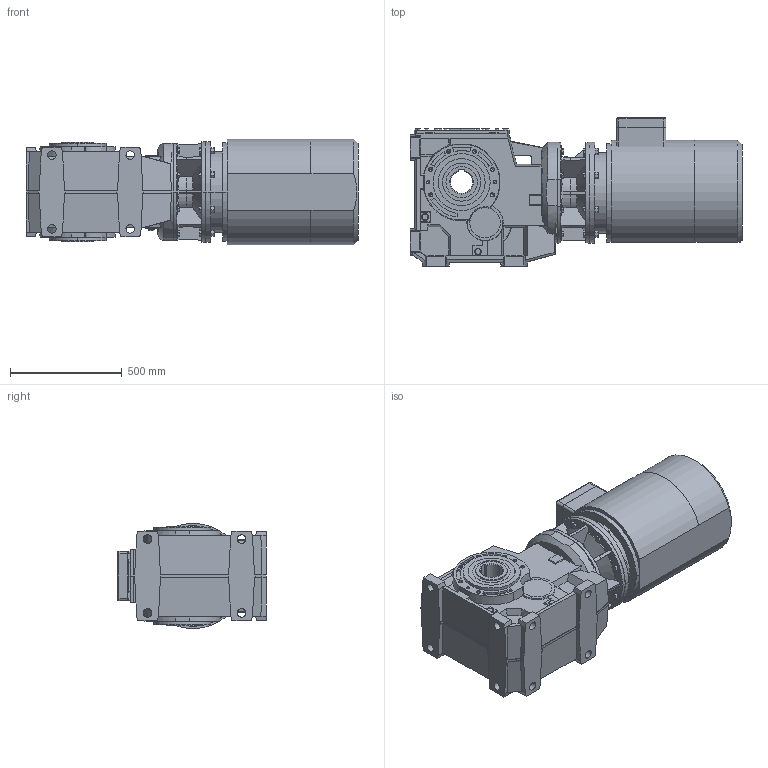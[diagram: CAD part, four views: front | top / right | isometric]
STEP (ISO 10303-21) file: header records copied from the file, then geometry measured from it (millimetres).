
FILE_DESCRIPTION( ( '' ), '1' );
FILE_NAME( '//expscmdclustefs.cadenas.external/client_exchange/iodir/jobs/output/wkb50801938_no0/STEP/B163UC8_89225_B5100000000T225M1_2_03.stp', '2012-11-06T01:39:46', ( '' ), ( '' ), ' ', ' ', ' ' );
FILE_SCHEMA( ( 'CONFIG_CONTROL_DESIGN' ) );
Length unit declared in the file: millimetre
Products named in the file (7): 1; 2; 3; 4; 5; 6; 7
Bounding box: 1483 x 663 x 469.99 mm (x, y, z)
Volume: 256482030.4 mm3; surface area: 5747432 mm2
Topology: 7 solids, 7 shells, 1195 faces, 3087 edges, 1999 vertices
Faces by surface type: plane 746, cylinder 262, cone 184, torus 3
Entity records: 36399 total; most frequent: CARTESIAN_POINT 6924, ORIENTED_EDGE 6110, DIRECTION 6035, EDGE_CURVE 3055, AXIS2_PLACEMENT_3D 2018, VERTEX_POINT 1999, LINE 1999, VECTOR 1999
